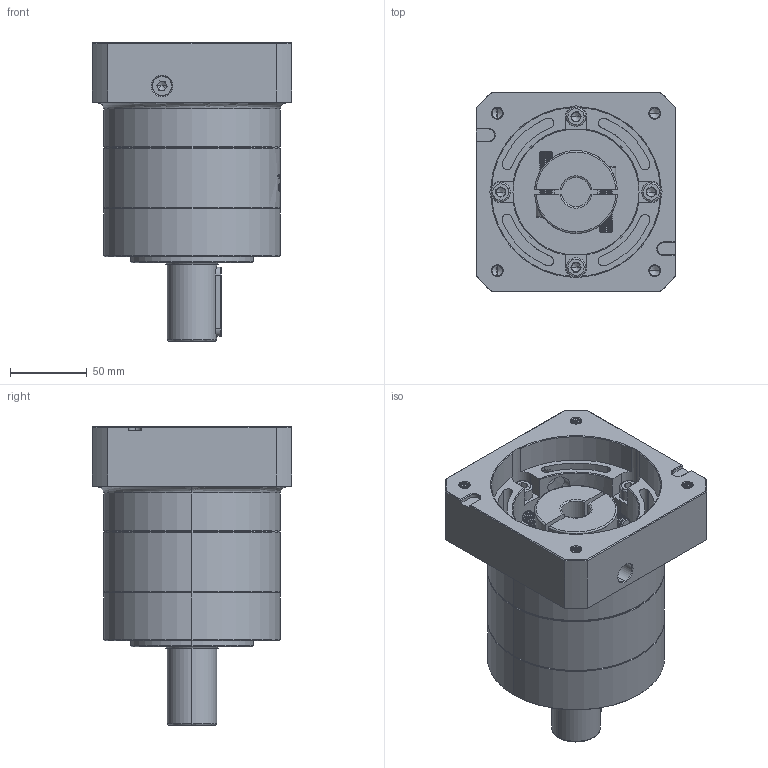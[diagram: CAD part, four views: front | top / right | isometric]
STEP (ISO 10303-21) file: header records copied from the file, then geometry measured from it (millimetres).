
FILE_DESCRIPTION (( 'STEP AP214' ), '1' );
FILE_NAME ('ZE120A-D32-L1-19-110-145-M8.step', '2023-03-09T06:26:31', ( '' ), ( '' ), 'SwSTEP 2.0', 'SolidWorks 2016', '' );
FILE_SCHEMA (( 'AUTOMOTIVE_DESIGN' ));
Length unit declared in the file: millimetre
Products named in the file (1): ZE120A-D32-L1-19-110-145-M8
Bounding box: 130 x 130 x 194 mm (x, y, z)
Volume: 1413483.7 mm3; surface area: 178021.9 mm2
Topology: 6 solids, 6 shells, 2085 faces, 5530 edges, 3536 vertices
Faces by surface type: plane 862, cylinder 547, bspline 335, cone 322, torus 19
Entity records: 122055 total; most frequent: CARTESIAN_POINT 51993, ORIENTED_EDGE 10984, DIRECTION 8302, EDGE_CURVE 5492, VERTEX_POINT 3536, LINE 2876, VECTOR 2876, AXIS2_PLACEMENT_3D 2713
